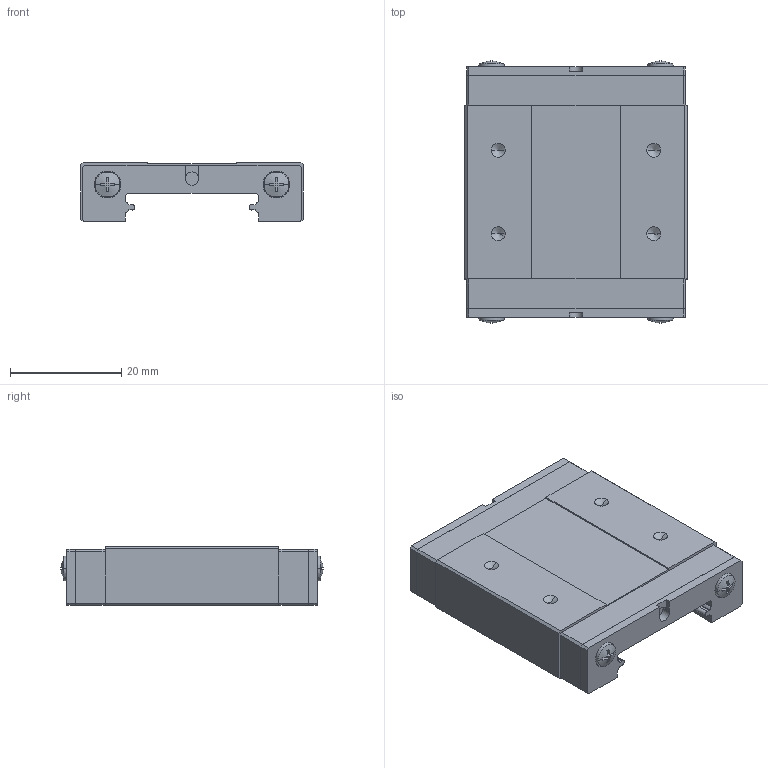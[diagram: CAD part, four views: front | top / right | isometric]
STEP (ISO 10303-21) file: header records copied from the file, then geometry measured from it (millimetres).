
FILE_DESCRIPTION(('no description'),'unknown implementation level');
FILE_NAME('MGW12C_ZF_H_M_SS_53.stp',' ',('HIWIN GmbH'),('CADClick - KiM GmbH - www.kimweb.de'),'unknown preprocess','ACIS','unknown authorization');
FILE_SCHEMA(('automotive_design'));
Length unit declared in the file: millimetre
Products named in the file (1): MGW12C ZF H M SS
Bounding box: 40 x 47.27 x 10.6 mm (x, y, z)
Volume: 13286.2 mm3; surface area: 5995.9 mm2
Topology: 1 solids, 3 shells, 194 faces, 528 edges, 344 vertices
Faces by surface type: plane 134, cylinder 32, cone 28
Entity records: 11860 total; most frequent: CARTESIAN_POINT 1171, STYLED_ITEM 1059, PRESENTATION_STYLE_ASSIGNMENT 1059, COLOUR_RGB 1059, ORIENTED_EDGE 1040, DIRECTION 950, EDGE_CURVE 520, CURVE_STYLE 520
